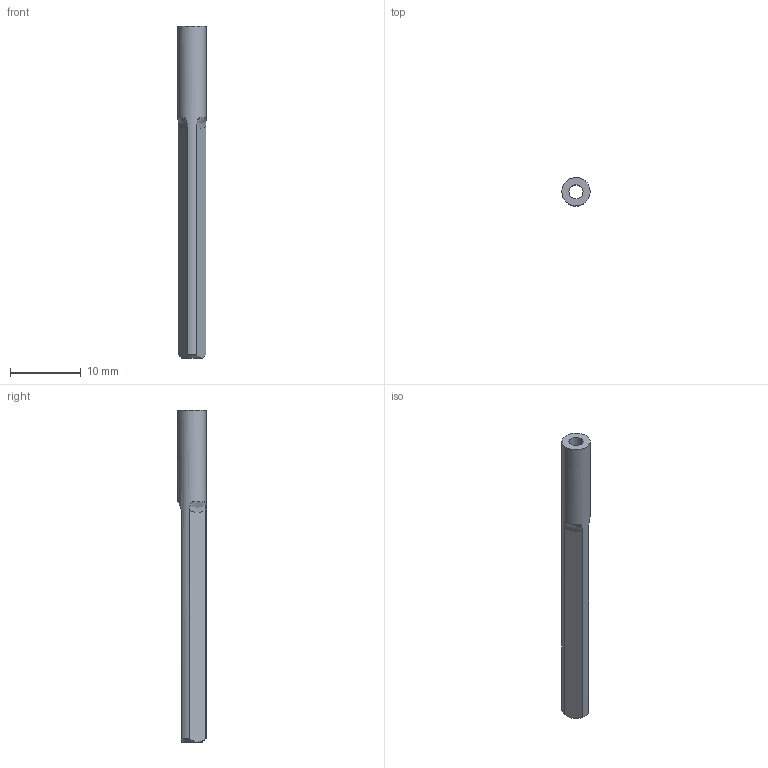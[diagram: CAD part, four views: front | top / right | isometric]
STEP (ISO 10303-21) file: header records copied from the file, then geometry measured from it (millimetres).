
FILE_DESCRIPTION((''),'2;1');
FILE_NAME('C:\Documents and Settings\mika1\Mes documents\pulverisation\MarcheLully\NewBuse\InjecteurCorps-2.stp','2016-07-28T21:25:43',('mika1'),(''),'Autodesk Inventor 2008','Autodesk Inventor 2008','');
FILE_SCHEMA(('AUTOMOTIVE_DESIGN { 1 0 10303 214 1 1 1 1 }'));
Length unit declared in the file: millimetre
Products named in the file (1): InjecteurCorps-2
Bounding box: 4 x 4 x 47 mm (x, y, z)
Volume: 347.9 mm3; surface area: 878.5 mm2
Topology: 1 solids, 1 shells, 15 faces, 41 edges, 28 vertices
Faces by surface type: bspline 5, plane 5, cone 3, cylinder 2
Full cylindrical faces by diameter (mm): 2 x1, 4 x1
Entity records: 910 total; most frequent: CARTESIAN_POINT 563, ORIENTED_EDGE 70, DIRECTION 56, EDGE_CURVE 35, VERTEX_POINT 26, AXIS2_PLACEMENT_3D 25, EDGE_LOOP 21, FACE_OUTER_BOUND 15
